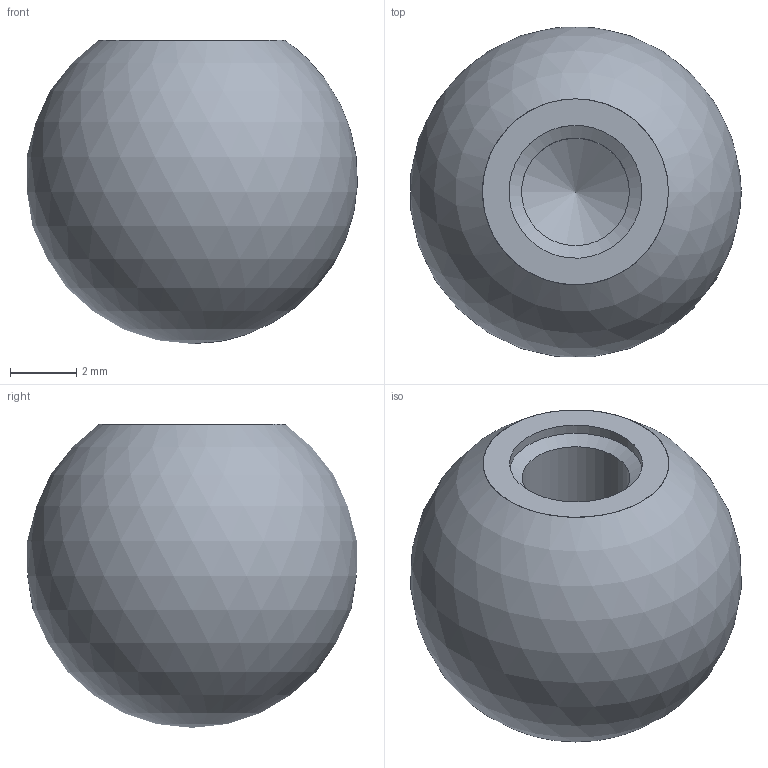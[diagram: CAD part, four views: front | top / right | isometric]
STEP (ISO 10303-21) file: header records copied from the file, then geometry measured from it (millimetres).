
FILE_DESCRIPTION(/* description */ ('','CAx-IF Rec.Pracs.---Representation and Presentation of Product Manufacturing Information (PMI)---3.8---2014-02-18'),/* implementation_level */ '2;1');
FILE_NAME(/* name */ 'E:\Users\CAD5\sito AP\scarica_file\3d\22.60.stp',/* time_stamp */ '2016-08-30T11:12:00+02:00',/* author */ ('CAD5'),/* organization */ (''),/* preprocessor_version */ 'ST-DEVELOPER v16.1',/* originating_system */ 'Autodesk Inventor 2016',/* authorisation */ '');
FILE_SCHEMA (('AP242_MANAGED_MODEL_BASED_3D_ENGINEERING_MIM_LF { 1 0 10303 442 1 1 4 }'));
Length unit declared in the file: millimetre
Products named in the file (4): Sfera Ø10 AISI 316; 22.61; Specialinsert M4 861_0040_80; 22.60
Assembly tree (3 placements, depth 3):
  22.60
    22.61
      Sfera Ø10 AISI 316
    Specialinsert M4 861_0040_80
Bounding box: 9.95 x 9.92 x 9.14 mm (x, y, z)
Volume: 431 mm3; surface area: 638 mm2
Topology: 2 solids, 2 shells, 11 faces, 24 edges, 16 vertices
Faces by surface type: cylinder 5, plane 3, cone 2, sphere 1
Full cylindrical faces by diameter (mm): 3.242 x1, 4 x1, 5 x1, 5.6 x2
Entity records: 310 total; most frequent: DIRECTION 56, CARTESIAN_POINT 38, AXIS2_PLACEMENT_3D 28, EDGE_LOOP 20, ORIENTED_EDGE 20, FACE_OUTER_BOUND 11, ADVANCED_FACE 11, CIRCLE 10
